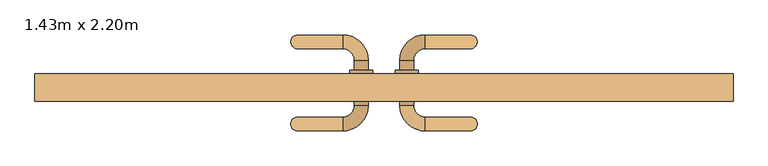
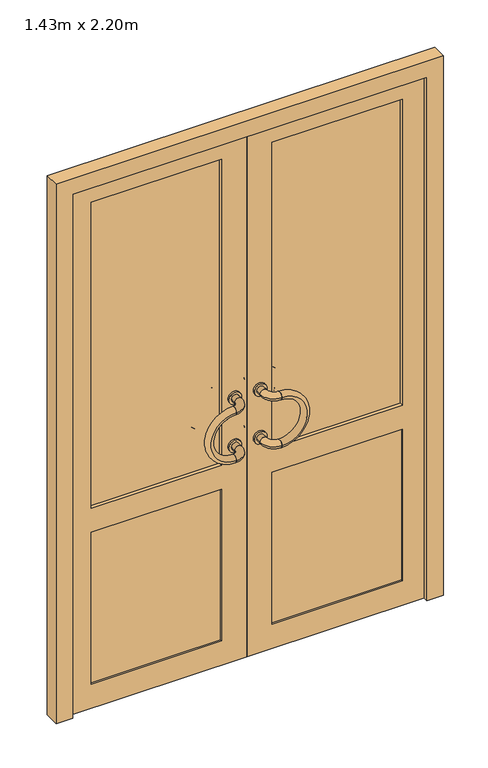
"""IFC4 building model written with IfcOpenShell, lengths in millimetres: door geometry, PVC Double - Panneaux vitrés haut : 1.43m x 2.20m."""

from ifc_helpers import new_model, si_unit, point, frame, frame_2d, origin, place, context, project, spatial, polyline, circle_curve, ellipse_curve, trimmed, segment, composite_curve, outline, extrude, faceted_brep, source, transform, mapped, element, save
from ifc_brep_helpers import plane_surface, revolved_surface, advanced_brep


def door_1_43m_x_2_20m_84f75056(model_context):
    return source(origin(), model_context, "Body", "SolidModel", [
        extrude(outline(composite_curve([segment(trimmed(circle_curve(frame_2d((1100.0, -50.0)), 25.0), [point((1100.0, -25.0))], [point((1100.0, -75.0))], False, "CARTESIAN"), True, "CONTINUOUS"), segment(trimmed(circle_curve(frame_2d((1100.0, -50.0)), 25.0), [point((1100.0, -75.0))], [point((1100.0, -25.0))], False, "CARTESIAN"), True, "CONTINUOUS")], self_intersect=False), holes=[composite_curve([segment(trimmed(circle_curve(frame_2d((1100.0, -50.0)), 15.0), [point((1100.0, -35.0))], [point((1100.0, -65.0))], True, "CARTESIAN"), True, "CONTINUOUS"), segment(trimmed(circle_curve(frame_2d((1100.0, -50.0)), 15.0), [point((1100.0, -65.0))], [point((1100.0, -35.0))], True, "CARTESIAN"), True, "CONTINUOUS")], self_intersect=False)]), frame((0.0, 62.0, 0.0), z_axis=(0.0, 1.0, 0.0), x_axis=(0.0, 0.0, 1.0)), (0.0, 0.0, 1.0), 8.0),
        extrude(outline(composite_curve([segment(trimmed(circle_curve(frame_2d((900.0, -50.0)), 25.0), [point((900.0, -25.0))], [point((900.0, -75.0))], False, "CARTESIAN"), True, "CONTINUOUS"), segment(trimmed(circle_curve(frame_2d((900.0, -50.0)), 25.0), [point((900.0, -75.0))], [point((900.0, -25.0))], False, "CARTESIAN"), True, "CONTINUOUS")], self_intersect=False), holes=[composite_curve([segment(trimmed(circle_curve(frame_2d((900.0, -50.0)), 15.0), [point((900.0, -35.0))], [point((900.0, -65.0))], True, "CARTESIAN"), True, "CONTINUOUS"), segment(trimmed(circle_curve(frame_2d((900.0, -50.0)), 15.0), [point((900.0, -65.0))], [point((900.0, -35.0))], True, "CARTESIAN"), True, "CONTINUOUS")], self_intersect=False)]), frame((0.0, 62.0, 0.0), z_axis=(0.0, 1.0, 0.0), x_axis=(0.0, 0.0, 1.0)), (0.0, 0.0, 1.0), 8.0),
        extrude(outline(composite_curve([segment(trimmed(circle_curve(frame_2d((1100.0, -50.0)), 25.0), [point((1100.0, -25.0))], [point((1100.0, -75.0))], False, "CARTESIAN"), True, "CONTINUOUS"), segment(trimmed(circle_curve(frame_2d((1100.0, -50.0)), 25.0), [point((1100.0, -75.0))], [point((1100.0, -25.0))], False, "CARTESIAN"), True, "CONTINUOUS")], self_intersect=False), holes=[composite_curve([segment(trimmed(circle_curve(frame_2d((1100.0, -50.0)), 15.0), [point((1100.0, -35.0))], [point((1100.0, -65.0))], True, "CARTESIAN"), True, "CONTINUOUS"), segment(trimmed(circle_curve(frame_2d((1100.0, -50.0)), 15.0), [point((1100.0, -65.0))], [point((1100.0, -35.0))], True, "CARTESIAN"), True, "CONTINUOUS")], self_intersect=False)]), frame((0.0, 110.0, 0.0), z_axis=(0.0, 1.0, 0.0), x_axis=(0.0, 0.0, 1.0)), (0.0, 0.0, 1.0), 8.0),
        extrude(outline(composite_curve([segment(trimmed(circle_curve(frame_2d((900.0, -50.0)), 25.0), [point((900.0, -25.0))], [point((900.0, -75.0))], False, "CARTESIAN"), True, "CONTINUOUS"), segment(trimmed(circle_curve(frame_2d((900.0, -50.0)), 25.0), [point((900.0, -75.0))], [point((900.0, -25.0))], False, "CARTESIAN"), True, "CONTINUOUS")], self_intersect=False), holes=[composite_curve([segment(trimmed(circle_curve(frame_2d((900.0, -50.0)), 15.0), [point((900.0, -35.0))], [point((900.0, -65.0))], True, "CARTESIAN"), True, "CONTINUOUS"), segment(trimmed(circle_curve(frame_2d((900.0, -50.0)), 15.0), [point((900.0, -65.0))], [point((900.0, -35.0))], True, "CARTESIAN"), True, "CONTINUOUS")], self_intersect=False)]), frame((0.0, 110.0, 0.0), z_axis=(0.0, 1.0, 0.0), x_axis=(0.0, 0.0, 1.0)), (0.0, 0.0, 1.0), 8.0),
        advanced_brep(
        [(-90.0, -15.0, 1100.0), (-90.0, 15.0, 1100.0), (-90.0, -15.0, 900.0), (-90.0, 15.0, 900.0)],
        [
            (0, 1, circle_curve(frame((-90.0, 0.0, 1100.0), z_axis=(1.0, 0.0, 0.0), x_axis=(0.0, 1.0, 0.0)), 15.0)),
            (1, 0, circle_curve(frame((-90.0, 0.0, 1100.0), z_axis=(1.0, 0.0, 0.0), x_axis=(0.0, 1.0, 0.0)), 15.0)),
            (2, 3, circle_curve(frame((-90.0, 0.0, 900.0), z_axis=(1.0, 0.0, 0.0), x_axis=(0.0, 1.0, 0.0)), 15.0)),
            (3, 2, circle_curve(frame((-90.0, 0.0, 900.0), z_axis=(1.0, 0.0, 0.0), x_axis=(0.0, 1.0, 0.0)), 15.0)),
            (3, 1, circle_curve(frame((-90.0, 15.0, 1000.0), z_axis=(0.0, 1.0, 0.0), x_axis=(0.0, 0.0, 1.0)), 100.0)),
            (0, 2, circle_curve(frame((-90.0, -15.0, 1000.0), z_axis=(0.0, -1.0, 0.0), x_axis=(0.0, 0.0, 1.0)), 100.0)),
        ],
        [
            plane_surface(frame((-90.0, 0.0, 1000.0), z_axis=(1.0, 0.0, 0.0), x_axis=(0.0, 0.0, 1.0))),
            plane_surface(frame((-90.0, 0.0, 1000.0), z_axis=(1.0, 0.0, 0.0), x_axis=(0.0, 0.0, -1.0))),
            revolved_surface(trimmed(ellipse_curve(frame((-90.0, 0.0, 1100.0), z_axis=(1.0, 0.0, 0.0), x_axis=(0.0, 1.0, 0.0)), 15.0, 15.0), [point((-90.0, -15.0, 1100.0))], [point((-90.0, 15.0, 1100.0))], True, "CARTESIAN"), (-90.0, 0.0, 1000.0), (0.0, -1.0, 0.0)),
            revolved_surface(trimmed(ellipse_curve(frame((-90.0, 0.0, 1100.0), z_axis=(1.0, 0.0, 0.0), x_axis=(0.0, 1.0, 0.0)), 15.0, 15.0), [point((-90.0, 15.0, 1100.0))], [point((-90.0, -15.0, 1100.0))], True, "CARTESIAN"), (-90.0, 0.0, 1000.0), (0.0, -1.0, 0.0)),
        ],
        [
            (0, [[1, 2]]),
            (1, [[3, 4]]),
            (2, [[5, -1, 6, -4]]),
            (3, [[-6, -2, -5, -3]]),
        ],
    ),
        advanced_brep(
        [(-65.0, 40.0, 1100.0), (-35.0, 40.0, 1100.0), (-90.0, 15.0, 1100.0), (-90.0, -15.0, 1100.0)],
        [
            (0, 1, circle_curve(frame((-50.0, 40.0, 1100.0), z_axis=(0.0, 1.0, 0.0), x_axis=(1.0, 0.0, 0.0)), 15.0)),
            (1, 0, circle_curve(frame((-50.0, 40.0, 1100.0), z_axis=(0.0, 1.0, 0.0), x_axis=(1.0, 0.0, 0.0)), 15.0)),
            (2, 3, circle_curve(frame((-90.0, 0.0, 1100.0), z_axis=(-1.0, 0.0, 0.0), x_axis=(0.0, -1.0, 0.0)), 15.0)),
            (3, 2, circle_curve(frame((-90.0, 0.0, 1100.0), z_axis=(-1.0, 0.0, 0.0), x_axis=(0.0, -1.0, 0.0)), 15.0)),
            (3, 1, circle_curve(frame((-90.0, 40.0, 1100.0), z_axis=(0.0, 0.0, 1.0), x_axis=(1.0, 0.0, 0.0)), 55.0)),
            (0, 2, circle_curve(frame((-90.0, 40.0, 1100.0), z_axis=(0.0, 0.0, -1.0), x_axis=(1.0, 0.0, 0.0)), 25.0)),
        ],
        [
            plane_surface(frame((-90.0, 40.0, 1100.0), z_axis=(0.0, 1.0, 0.0), x_axis=(1.0, 0.0, 0.0))),
            plane_surface(frame((-90.0, 40.0, 1100.0), z_axis=(-1.0, 0.0, 0.0), x_axis=(0.0, -1.0, 0.0))),
            revolved_surface(trimmed(ellipse_curve(frame((-50.0, 40.0, 1100.0), z_axis=(0.0, 1.0, 0.0), x_axis=(1.0, 0.0, 0.0)), 15.0, 15.0), [point((-65.0, 40.0, 1100.0))], [point((-35.0, 40.0, 1100.0))], True, "CARTESIAN"), (-90.0, 40.0, 1100.0), (0.0, 0.0, -1.0)),
            revolved_surface(trimmed(ellipse_curve(frame((-50.0, 40.0, 1100.0), z_axis=(0.0, 1.0, 0.0), x_axis=(1.0, 0.0, 0.0)), 15.0, 15.0), [point((-35.0, 40.0, 1100.0))], [point((-65.0, 40.0, 1100.0))], True, "CARTESIAN"), (-90.0, 40.0, 1100.0), (0.0, 0.0, -1.0)),
        ],
        [
            (0, [[1, 2]]),
            (1, [[3, 4]]),
            (2, [[5, -1, 6, -4]]),
            (3, [[-6, -2, -5, -3]]),
        ],
    ),
        advanced_brep(
        [(-65.0, 40.0, 900.0), (-35.0, 40.0, 900.0), (-90.0, 15.0, 900.0), (-90.0, -15.0, 900.0)],
        [
            (0, 1, circle_curve(frame((-50.0, 40.0, 900.0), z_axis=(0.0, 1.0, 0.0), x_axis=(1.0, 0.0, 0.0)), 15.0)),
            (1, 0, circle_curve(frame((-50.0, 40.0, 900.0), z_axis=(0.0, 1.0, 0.0), x_axis=(1.0, 0.0, 0.0)), 15.0)),
            (2, 3, circle_curve(frame((-90.0, 0.0, 900.0), z_axis=(-1.0, 0.0, 0.0), x_axis=(0.0, -1.0, 0.0)), 15.0)),
            (3, 2, circle_curve(frame((-90.0, 0.0, 900.0), z_axis=(-1.0, 0.0, 0.0), x_axis=(0.0, -1.0, 0.0)), 15.0)),
            (3, 1, circle_curve(frame((-90.0, 40.0, 900.0), z_axis=(0.0, 0.0, 1.0), x_axis=(1.0, 0.0, 0.0)), 55.0)),
            (0, 2, circle_curve(frame((-90.0, 40.0, 900.0), z_axis=(0.0, 0.0, -1.0), x_axis=(1.0, 0.0, 0.0)), 25.0)),
        ],
        [
            plane_surface(frame((-90.0, 40.0, 1100.0), z_axis=(0.0, 1.0, 0.0), x_axis=(1.0, 0.0, 0.0))),
            plane_surface(frame((-90.0, 40.0, 1100.0), z_axis=(-1.0, 0.0, 0.0), x_axis=(0.0, -1.0, 0.0))),
            revolved_surface(trimmed(ellipse_curve(frame((-50.0, 40.0, 900.0), z_axis=(0.0, 1.0, 0.0), x_axis=(1.0, 0.0, 0.0)), 15.0, 15.0), [point((-65.0, 40.0, 900.0))], [point((-35.0, 40.0, 900.0))], True, "CARTESIAN"), (-90.0, 40.0, 1100.0), (0.0, 0.0, -1.0)),
            revolved_surface(trimmed(ellipse_curve(frame((-50.0, 40.0, 900.0), z_axis=(0.0, 1.0, 0.0), x_axis=(1.0, 0.0, 0.0)), 15.0, 15.0), [point((-35.0, 40.0, 900.0))], [point((-65.0, 40.0, 900.0))], True, "CARTESIAN"), (-90.0, 40.0, 1100.0), (0.0, 0.0, -1.0)),
        ],
        [
            (0, [[1, 2]]),
            (1, [[3, 4]]),
            (2, [[5, -1, 6, -4]]),
            (3, [[-6, -2, -5, -3]]),
        ],
    ),
        extrude(outline(composite_curve([segment(trimmed(circle_curve(frame_2d((1100.0, -50.0)), 15.0), [point((1100.0, -35.0))], [point((1100.0, -65.0))], False, "CARTESIAN"), True, "CONTINUOUS"), segment(trimmed(circle_curve(frame_2d((1100.0, -50.0)), 15.0), [point((1100.0, -65.0))], [point((1100.0, -35.0))], False, "CARTESIAN"), True, "CONTINUOUS")], self_intersect=False)), frame((0.0, 40.0, 0.0), z_axis=(0.0, 1.0, 0.0), x_axis=(0.0, 0.0, 1.0)), (0.0, 0.0, 1.0), 30.0),
        extrude(outline(composite_curve([segment(trimmed(circle_curve(frame_2d((900.0, -50.0)), 15.0), [point((900.0, -35.0))], [point((900.0, -65.0))], False, "CARTESIAN"), True, "CONTINUOUS"), segment(trimmed(circle_curve(frame_2d((900.0, -50.0)), 15.0), [point((900.0, -65.0))], [point((900.0, -35.0))], False, "CARTESIAN"), True, "CONTINUOUS")], self_intersect=False)), frame((0.0, 40.0, 0.0), z_axis=(0.0, 1.0, 0.0), x_axis=(0.0, 0.0, 1.0)), (0.0, 0.0, 1.0), 30.0),
        advanced_brep(
        [(-90.0, 165.0, 1100.0), (-90.0, 195.0, 1100.0), (-90.0, 165.0, 900.0), (-90.0, 195.0, 900.0)],
        [
            (0, 1, circle_curve(frame((-90.0, 180.0, 1100.0), z_axis=(1.0, 0.0, 0.0), x_axis=(0.0, 1.0, 0.0)), 15.0)),
            (1, 0, circle_curve(frame((-90.0, 180.0, 1100.0), z_axis=(1.0, 0.0, 0.0), x_axis=(0.0, 1.0, 0.0)), 15.0)),
            (2, 3, circle_curve(frame((-90.0, 180.0, 900.0), z_axis=(1.0, 0.0, 0.0), x_axis=(0.0, 1.0, 0.0)), 15.0)),
            (3, 2, circle_curve(frame((-90.0, 180.0, 900.0), z_axis=(1.0, 0.0, 0.0), x_axis=(0.0, 1.0, 0.0)), 15.0)),
            (3, 1, circle_curve(frame((-90.0, 195.0, 1000.0), z_axis=(0.0, 1.0, 0.0), x_axis=(0.0, 0.0, 1.0)), 100.0)),
            (0, 2, circle_curve(frame((-90.0, 165.0, 1000.0), z_axis=(0.0, -1.0, 0.0), x_axis=(0.0, 0.0, 1.0)), 100.0)),
        ],
        [
            plane_surface(frame((-90.0, 195.0, 1000.0), z_axis=(1.0, 0.0, 0.0), x_axis=(0.0, 0.0, 1.0))),
            plane_surface(frame((-90.0, 195.0, 1000.0), z_axis=(1.0, 0.0, 0.0), x_axis=(0.0, 0.0, -1.0))),
            revolved_surface(trimmed(ellipse_curve(frame((-90.0, 180.0, 1100.0), z_axis=(1.0, 0.0, 0.0), x_axis=(0.0, 1.0, 0.0)), 15.0, 15.0), [point((-90.0, 165.0, 1100.0))], [point((-90.0, 195.0, 1100.0))], True, "CARTESIAN"), (-90.0, 195.0, 1000.0), (0.0, -1.0, 0.0)),
            revolved_surface(trimmed(ellipse_curve(frame((-90.0, 180.0, 1100.0), z_axis=(1.0, 0.0, 0.0), x_axis=(0.0, 1.0, 0.0)), 15.0, 15.0), [point((-90.0, 195.0, 1100.0))], [point((-90.0, 165.0, 1100.0))], True, "CARTESIAN"), (-90.0, 195.0, 1000.0), (0.0, -1.0, 0.0)),
        ],
        [
            (0, [[1, 2]]),
            (1, [[3, 4]]),
            (2, [[5, -1, 6, -4]]),
            (3, [[-6, -2, -5, -3]]),
        ],
    ),
        advanced_brep(
        [(-35.0, 140.0, 1100.0), (-65.0, 140.0, 1100.0), (-90.0, 195.0, 1100.0), (-90.0, 165.0, 1100.0)],
        [
            (0, 1, circle_curve(frame((-50.0, 140.0, 1100.0), z_axis=(0.0, -1.0, 0.0), x_axis=(-1.0, 0.0, 0.0)), 15.0)),
            (1, 0, circle_curve(frame((-50.0, 140.0, 1100.0), z_axis=(0.0, -1.0, 0.0), x_axis=(-1.0, 0.0, 0.0)), 15.0)),
            (2, 3, circle_curve(frame((-90.0, 180.0, 1100.0), z_axis=(-1.0, 0.0, 0.0), x_axis=(0.0, -1.0, 0.0)), 15.0)),
            (3, 2, circle_curve(frame((-90.0, 180.0, 1100.0), z_axis=(-1.0, 0.0, 0.0), x_axis=(0.0, -1.0, 0.0)), 15.0)),
            (3, 1, circle_curve(frame((-90.0, 140.0, 1100.0), z_axis=(0.0, 0.0, -1.0), x_axis=(1.0, 0.0, 0.0)), 25.0)),
            (0, 2, circle_curve(frame((-90.0, 140.0, 1100.0), z_axis=(0.0, 0.0, 1.0), x_axis=(1.0, 0.0, 0.0)), 55.0)),
        ],
        [
            plane_surface(frame((-90.0, 140.0, 1100.0), z_axis=(0.0, -1.0, 0.0), x_axis=(1.0, 0.0, 0.0))),
            plane_surface(frame((-90.0, 140.0, 1100.0), z_axis=(-1.0, 0.0, 0.0), x_axis=(0.0, 1.0, 0.0))),
            revolved_surface(trimmed(ellipse_curve(frame((-50.0, 140.0, 1100.0), z_axis=(0.0, -1.0, 0.0), x_axis=(-1.0, 0.0, 0.0)), 15.0, 15.0), [point((-35.0, 140.0, 1100.0))], [point((-65.0, 140.0, 1100.0))], True, "CARTESIAN"), (-90.0, 140.0, 1100.0), (0.0, 0.0, 1.0)),
            revolved_surface(trimmed(ellipse_curve(frame((-50.0, 140.0, 1100.0), z_axis=(0.0, -1.0, 0.0), x_axis=(-1.0, 0.0, 0.0)), 15.0, 15.0), [point((-65.0, 140.0, 1100.0))], [point((-35.0, 140.0, 1100.0))], True, "CARTESIAN"), (-90.0, 140.0, 1100.0), (0.0, 0.0, 1.0)),
        ],
        [
            (0, [[1, 2]]),
            (1, [[3, 4]]),
            (2, [[5, -1, 6, -4]]),
            (3, [[-6, -2, -5, -3]]),
        ],
    ),
        advanced_brep(
        [(-35.0, 140.0, 900.0), (-65.0, 140.0, 900.0), (-90.0, 195.0, 900.0), (-90.0, 165.0, 900.0)],
        [
            (0, 1, circle_curve(frame((-50.0, 140.0, 900.0), z_axis=(0.0, -1.0, 0.0), x_axis=(-1.0, 0.0, 0.0)), 15.0)),
            (1, 0, circle_curve(frame((-50.0, 140.0, 900.0), z_axis=(0.0, -1.0, 0.0), x_axis=(-1.0, 0.0, 0.0)), 15.0)),
            (2, 3, circle_curve(frame((-90.0, 180.0, 900.0), z_axis=(-1.0, 0.0, 0.0), x_axis=(0.0, -1.0, 0.0)), 15.0)),
            (3, 2, circle_curve(frame((-90.0, 180.0, 900.0), z_axis=(-1.0, 0.0, 0.0), x_axis=(0.0, -1.0, 0.0)), 15.0)),
            (3, 1, circle_curve(frame((-90.0, 140.0, 900.0), z_axis=(0.0, 0.0, -1.0), x_axis=(1.0, 0.0, 0.0)), 25.0)),
            (0, 2, circle_curve(frame((-90.0, 140.0, 900.0), z_axis=(0.0, 0.0, 1.0), x_axis=(1.0, 0.0, 0.0)), 55.0)),
        ],
        [
            plane_surface(frame((-90.0, 140.0, 1100.0), z_axis=(0.0, -1.0, 0.0), x_axis=(1.0, 0.0, 0.0))),
            plane_surface(frame((-90.0, 140.0, 1100.0), z_axis=(-1.0, 0.0, 0.0), x_axis=(0.0, 1.0, 0.0))),
            revolved_surface(trimmed(ellipse_curve(frame((-50.0, 140.0, 900.0), z_axis=(0.0, -1.0, 0.0), x_axis=(-1.0, 0.0, 0.0)), 15.0, 15.0), [point((-35.0, 140.0, 900.0))], [point((-65.0, 140.0, 900.0))], True, "CARTESIAN"), (-90.0, 140.0, 1100.0), (0.0, 0.0, 1.0)),
            revolved_surface(trimmed(ellipse_curve(frame((-50.0, 140.0, 900.0), z_axis=(0.0, -1.0, 0.0), x_axis=(-1.0, 0.0, 0.0)), 15.0, 15.0), [point((-65.0, 140.0, 900.0))], [point((-35.0, 140.0, 900.0))], True, "CARTESIAN"), (-90.0, 140.0, 1100.0), (0.0, 0.0, 1.0)),
        ],
        [
            (0, [[1, 2]]),
            (1, [[3, 4]]),
            (2, [[5, -1, 6, -4]]),
            (3, [[-6, -2, -5, -3]]),
        ],
    ),
        extrude(outline(composite_curve([segment(trimmed(circle_curve(frame_2d((1100.0, -50.0)), 15.0), [point((1100.0, -35.0))], [point((1100.0, -65.0))], False, "CARTESIAN"), True, "CONTINUOUS"), segment(trimmed(circle_curve(frame_2d((1100.0, -50.0)), 15.0), [point((1100.0, -65.0))], [point((1100.0, -35.0))], False, "CARTESIAN"), True, "CONTINUOUS")], self_intersect=False)), frame((0.0, 110.0, 0.0), z_axis=(0.0, 1.0, 0.0), x_axis=(0.0, 0.0, 1.0)), (0.0, 0.0, 1.0), 30.0),
        extrude(outline(composite_curve([segment(trimmed(circle_curve(frame_2d((900.0, -50.0)), 15.0), [point((900.0, -35.0))], [point((900.0, -65.0))], False, "CARTESIAN"), True, "CONTINUOUS"), segment(trimmed(circle_curve(frame_2d((900.0, -50.0)), 15.0), [point((900.0, -65.0))], [point((900.0, -35.0))], False, "CARTESIAN"), True, "CONTINUOUS")], self_intersect=False)), frame((0.0, 110.0, 0.0), z_axis=(0.0, 1.0, 0.0), x_axis=(0.0, 0.0, 1.0)), (0.0, 0.0, 1.0), 30.0),
        extrude(outline(composite_curve([segment(trimmed(circle_curve(frame_2d((1100.0, 50.0)), 25.0), [point((1100.0, 25.0))], [point((1100.0, 75.0))], False, "CARTESIAN"), True, "CONTINUOUS"), segment(trimmed(circle_curve(frame_2d((1100.0, 50.0)), 25.0), [point((1100.0, 75.0))], [point((1100.0, 25.0))], False, "CARTESIAN"), True, "CONTINUOUS")], self_intersect=False), holes=[composite_curve([segment(trimmed(circle_curve(frame_2d((1100.0, 50.0)), 15.0), [point((1100.0, 35.0))], [point((1100.0, 65.0))], True, "CARTESIAN"), True, "CONTINUOUS"), segment(trimmed(circle_curve(frame_2d((1100.0, 50.0)), 15.0), [point((1100.0, 65.0))], [point((1100.0, 35.0))], True, "CARTESIAN"), True, "CONTINUOUS")], self_intersect=False)]), frame((0.0, 62.0, 0.0), z_axis=(0.0, 1.0, 0.0), x_axis=(0.0, 0.0, 1.0)), (0.0, 0.0, 1.0), 8.0),
        extrude(outline(composite_curve([segment(trimmed(circle_curve(frame_2d((900.0, 50.0)), 25.0), [point((900.0, 25.0))], [point((900.0, 75.0))], False, "CARTESIAN"), True, "CONTINUOUS"), segment(trimmed(circle_curve(frame_2d((900.0, 50.0)), 25.0), [point((900.0, 75.0))], [point((900.0, 25.0))], False, "CARTESIAN"), True, "CONTINUOUS")], self_intersect=False), holes=[composite_curve([segment(trimmed(circle_curve(frame_2d((900.0, 50.0)), 15.0), [point((900.0, 35.0))], [point((900.0, 65.0))], True, "CARTESIAN"), True, "CONTINUOUS"), segment(trimmed(circle_curve(frame_2d((900.0, 50.0)), 15.0), [point((900.0, 65.0))], [point((900.0, 35.0))], True, "CARTESIAN"), True, "CONTINUOUS")], self_intersect=False)]), frame((0.0, 62.0, 0.0), z_axis=(0.0, 1.0, 0.0), x_axis=(0.0, 0.0, 1.0)), (0.0, 0.0, 1.0), 8.0),
        extrude(outline(composite_curve([segment(trimmed(circle_curve(frame_2d((1100.0, 50.0)), 25.0), [point((1100.0, 25.0))], [point((1100.0, 75.0))], False, "CARTESIAN"), True, "CONTINUOUS"), segment(trimmed(circle_curve(frame_2d((1100.0, 50.0)), 25.0), [point((1100.0, 75.0))], [point((1100.0, 25.0))], False, "CARTESIAN"), True, "CONTINUOUS")], self_intersect=False), holes=[composite_curve([segment(trimmed(circle_curve(frame_2d((1100.0, 50.0)), 15.0), [point((1100.0, 35.0))], [point((1100.0, 65.0))], True, "CARTESIAN"), True, "CONTINUOUS"), segment(trimmed(circle_curve(frame_2d((1100.0, 50.0)), 15.0), [point((1100.0, 65.0))], [point((1100.0, 35.0))], True, "CARTESIAN"), True, "CONTINUOUS")], self_intersect=False)]), frame((0.0, 110.0, 0.0), z_axis=(0.0, 1.0, 0.0), x_axis=(0.0, 0.0, 1.0)), (0.0, 0.0, 1.0), 8.0),
        extrude(outline(composite_curve([segment(trimmed(circle_curve(frame_2d((900.0, 50.0)), 25.0), [point((900.0, 25.0))], [point((900.0, 75.0))], False, "CARTESIAN"), True, "CONTINUOUS"), segment(trimmed(circle_curve(frame_2d((900.0, 50.0)), 25.0), [point((900.0, 75.0))], [point((900.0, 25.0))], False, "CARTESIAN"), True, "CONTINUOUS")], self_intersect=False), holes=[composite_curve([segment(trimmed(circle_curve(frame_2d((900.0, 50.0)), 15.0), [point((900.0, 35.0))], [point((900.0, 65.0))], True, "CARTESIAN"), True, "CONTINUOUS"), segment(trimmed(circle_curve(frame_2d((900.0, 50.0)), 15.0), [point((900.0, 65.0))], [point((900.0, 35.0))], True, "CARTESIAN"), True, "CONTINUOUS")], self_intersect=False)]), frame((0.0, 110.0, 0.0), z_axis=(0.0, 1.0, 0.0), x_axis=(0.0, 0.0, 1.0)), (0.0, 0.0, 1.0), 8.0),
        advanced_brep(
        [(90.0, -15.0, 1100.0), (90.0, 15.0, 1100.0), (90.0, -15.0, 900.0), (90.0, 15.0, 900.0)],
        [
            (0, 1, circle_curve(frame((90.0, 0.0, 1100.0), z_axis=(-1.0, 0.0, 0.0), x_axis=(0.0, 1.0, 0.0)), 15.0)),
            (1, 0, circle_curve(frame((90.0, 0.0, 1100.0), z_axis=(-1.0, 0.0, 0.0), x_axis=(0.0, 1.0, 0.0)), 15.0)),
            (2, 3, circle_curve(frame((90.0, 0.0, 900.0), z_axis=(-1.0, 0.0, 0.0), x_axis=(0.0, 1.0, 0.0)), 15.0)),
            (3, 2, circle_curve(frame((90.0, 0.0, 900.0), z_axis=(-1.0, 0.0, 0.0), x_axis=(0.0, 1.0, 0.0)), 15.0)),
            (2, 0, circle_curve(frame((90.0, -15.0, 1000.0), z_axis=(0.0, -1.0, 0.0), x_axis=(0.0, 0.0, 1.0)), 100.0)),
            (1, 3, circle_curve(frame((90.0, 15.0, 1000.0), z_axis=(0.0, 1.0, 0.0), x_axis=(0.0, 0.0, 1.0)), 100.0)),
        ],
        [
            plane_surface(frame((90.0, 0.0, 1000.0), z_axis=(-1.0, 0.0, 0.0), x_axis=(0.0, 0.0, 1.0))),
            plane_surface(frame((90.0, 0.0, 1000.0), z_axis=(-1.0, 0.0, 0.0), x_axis=(0.0, 0.0, -1.0))),
            revolved_surface(trimmed(ellipse_curve(frame((90.0, 0.0, 1100.0), z_axis=(1.0, 0.0, 0.0), x_axis=(0.0, 1.0, 0.0)), 15.0, 15.0), [point((90.0, -15.0, 1100.0))], [point((90.0, 15.0, 1100.0))], True, "CARTESIAN"), (90.0, 0.0, 1000.0), (0.0, -1.0, 0.0)),
            revolved_surface(trimmed(ellipse_curve(frame((90.0, 0.0, 1100.0), z_axis=(1.0, 0.0, 0.0), x_axis=(0.0, 1.0, 0.0)), 15.0, 15.0), [point((90.0, 15.0, 1100.0))], [point((90.0, -15.0, 1100.0))], True, "CARTESIAN"), (90.0, 0.0, 1000.0), (0.0, -1.0, 0.0)),
        ],
        [
            (0, [[1, 2]]),
            (1, [[3, 4]]),
            (2, [[-3, 5, -2, 6]]),
            (3, [[-4, -6, -1, -5]]),
        ],
    ),
        advanced_brep(
        [(65.0, 40.0, 1100.0), (35.0, 40.0, 1100.0), (90.0, 15.0, 1100.0), (90.0, -15.0, 1100.0)],
        [
            (0, 1, circle_curve(frame((50.0, 40.0, 1100.0), z_axis=(0.0, 1.0, 0.0), x_axis=(-1.0, 0.0, 0.0)), 15.0)),
            (1, 0, circle_curve(frame((50.0, 40.0, 1100.0), z_axis=(0.0, 1.0, 0.0), x_axis=(-1.0, 0.0, 0.0)), 15.0)),
            (2, 3, circle_curve(frame((90.0, 0.0, 1100.0), z_axis=(1.0, 0.0, 0.0), x_axis=(0.0, -1.0, 0.0)), 15.0)),
            (3, 2, circle_curve(frame((90.0, 0.0, 1100.0), z_axis=(1.0, 0.0, 0.0), x_axis=(0.0, -1.0, 0.0)), 15.0)),
            (2, 0, circle_curve(frame((90.0, 40.0, 1100.0), z_axis=(0.0, 0.0, -1.0), x_axis=(-1.0, 0.0, 0.0)), 25.0)),
            (1, 3, circle_curve(frame((90.0, 40.0, 1100.0), z_axis=(0.0, 0.0, 1.0), x_axis=(-1.0, 0.0, 0.0)), 55.0)),
        ],
        [
            plane_surface(frame((90.0, 40.0, 1100.0), z_axis=(0.0, 1.0, 0.0), x_axis=(-1.0, 0.0, 0.0))),
            plane_surface(frame((90.0, 40.0, 1100.0), z_axis=(1.0, 0.0, 0.0), x_axis=(0.0, -1.0, 0.0))),
            revolved_surface(trimmed(ellipse_curve(frame((50.0, 40.0, 1100.0), z_axis=(0.0, -1.0, 0.0), x_axis=(-1.0, 0.0, 0.0)), 15.0, 15.0), [point((65.0, 40.0, 1100.0))], [point((35.0, 40.0, 1100.0))], True, "CARTESIAN"), (90.0, 40.0, 1100.0), (0.0, 0.0, -1.0)),
            revolved_surface(trimmed(ellipse_curve(frame((50.0, 40.0, 1100.0), z_axis=(0.0, -1.0, 0.0), x_axis=(-1.0, 0.0, 0.0)), 15.0, 15.0), [point((35.0, 40.0, 1100.0))], [point((65.0, 40.0, 1100.0))], True, "CARTESIAN"), (90.0, 40.0, 1100.0), (0.0, 0.0, -1.0)),
        ],
        [
            (0, [[1, 2]]),
            (1, [[3, 4]]),
            (2, [[-3, 5, -2, 6]]),
            (3, [[-4, -6, -1, -5]]),
        ],
    ),
        advanced_brep(
        [(65.0, 40.0, 900.0), (35.0, 40.0, 900.0), (90.0, 15.0, 900.0), (90.0, -15.0, 900.0)],
        [
            (0, 1, circle_curve(frame((50.0, 40.0, 900.0), z_axis=(0.0, 1.0, 0.0), x_axis=(-1.0, 0.0, 0.0)), 15.0)),
            (1, 0, circle_curve(frame((50.0, 40.0, 900.0), z_axis=(0.0, 1.0, 0.0), x_axis=(-1.0, 0.0, 0.0)), 15.0)),
            (2, 3, circle_curve(frame((90.0, 0.0, 900.0), z_axis=(1.0, 0.0, 0.0), x_axis=(0.0, -1.0, 0.0)), 15.0)),
            (3, 2, circle_curve(frame((90.0, 0.0, 900.0), z_axis=(1.0, 0.0, 0.0), x_axis=(0.0, -1.0, 0.0)), 15.0)),
            (2, 0, circle_curve(frame((90.0, 40.0, 900.0), z_axis=(0.0, 0.0, -1.0), x_axis=(-1.0, 0.0, 0.0)), 25.0)),
            (1, 3, circle_curve(frame((90.0, 40.0, 900.0), z_axis=(0.0, 0.0, 1.0), x_axis=(-1.0, 0.0, 0.0)), 55.0)),
        ],
        [
            plane_surface(frame((90.0, 40.0, 1100.0), z_axis=(0.0, 1.0, 0.0), x_axis=(-1.0, 0.0, 0.0))),
            plane_surface(frame((90.0, 40.0, 1100.0), z_axis=(1.0, 0.0, 0.0), x_axis=(0.0, -1.0, 0.0))),
            revolved_surface(trimmed(ellipse_curve(frame((50.0, 40.0, 900.0), z_axis=(0.0, -1.0, 0.0), x_axis=(-1.0, 0.0, 0.0)), 15.0, 15.0), [point((65.0, 40.0, 900.0))], [point((35.0, 40.0, 900.0))], True, "CARTESIAN"), (90.0, 40.0, 1100.0), (0.0, 0.0, -1.0)),
            revolved_surface(trimmed(ellipse_curve(frame((50.0, 40.0, 900.0), z_axis=(0.0, -1.0, 0.0), x_axis=(-1.0, 0.0, 0.0)), 15.0, 15.0), [point((35.0, 40.0, 900.0))], [point((65.0, 40.0, 900.0))], True, "CARTESIAN"), (90.0, 40.0, 1100.0), (0.0, 0.0, -1.0)),
        ],
        [
            (0, [[1, 2]]),
            (1, [[3, 4]]),
            (2, [[-3, 5, -2, 6]]),
            (3, [[-4, -6, -1, -5]]),
        ],
    ),
        extrude(outline(composite_curve([segment(trimmed(circle_curve(frame_2d((1100.0, 50.0)), 15.0), [point((1100.0, 35.0))], [point((1100.0, 65.0))], False, "CARTESIAN"), True, "CONTINUOUS"), segment(trimmed(circle_curve(frame_2d((1100.0, 50.0)), 15.0), [point((1100.0, 65.0))], [point((1100.0, 35.0))], False, "CARTESIAN"), True, "CONTINUOUS")], self_intersect=False)), frame((0.0, 40.0, 0.0), z_axis=(0.0, 1.0, 0.0), x_axis=(0.0, 0.0, 1.0)), (0.0, 0.0, 1.0), 30.0),
        extrude(outline(composite_curve([segment(trimmed(circle_curve(frame_2d((900.0, 50.0)), 15.0), [point((900.0, 35.0))], [point((900.0, 65.0))], False, "CARTESIAN"), True, "CONTINUOUS"), segment(trimmed(circle_curve(frame_2d((900.0, 50.0)), 15.0), [point((900.0, 65.0))], [point((900.0, 35.0))], False, "CARTESIAN"), True, "CONTINUOUS")], self_intersect=False)), frame((0.0, 40.0, 0.0), z_axis=(0.0, 1.0, 0.0), x_axis=(0.0, 0.0, 1.0)), (0.0, 0.0, 1.0), 30.0),
        advanced_brep(
        [(90.0, 165.0, 1100.0), (90.0, 195.0, 1100.0), (90.0, 165.0, 900.0), (90.0, 195.0, 900.0)],
        [
            (0, 1, circle_curve(frame((90.0, 180.0, 1100.0), z_axis=(-1.0, 0.0, 0.0), x_axis=(0.0, 1.0, 0.0)), 15.0)),
            (1, 0, circle_curve(frame((90.0, 180.0, 1100.0), z_axis=(-1.0, 0.0, 0.0), x_axis=(0.0, 1.0, 0.0)), 15.0)),
            (2, 3, circle_curve(frame((90.0, 180.0, 900.0), z_axis=(-1.0, 0.0, 0.0), x_axis=(0.0, 1.0, 0.0)), 15.0)),
            (3, 2, circle_curve(frame((90.0, 180.0, 900.0), z_axis=(-1.0, 0.0, 0.0), x_axis=(0.0, 1.0, 0.0)), 15.0)),
            (2, 0, circle_curve(frame((90.0, 165.0, 1000.0), z_axis=(0.0, -1.0, 0.0), x_axis=(0.0, 0.0, 1.0)), 100.0)),
            (1, 3, circle_curve(frame((90.0, 195.0, 1000.0), z_axis=(0.0, 1.0, 0.0), x_axis=(0.0, 0.0, 1.0)), 100.0)),
        ],
        [
            plane_surface(frame((90.0, 195.0, 1000.0), z_axis=(-1.0, 0.0, 0.0), x_axis=(0.0, 0.0, 1.0))),
            plane_surface(frame((90.0, 195.0, 1000.0), z_axis=(-1.0, 0.0, 0.0), x_axis=(0.0, 0.0, -1.0))),
            revolved_surface(trimmed(ellipse_curve(frame((90.0, 180.0, 1100.0), z_axis=(1.0, 0.0, 0.0), x_axis=(0.0, 1.0, 0.0)), 15.0, 15.0), [point((90.0, 165.0, 1100.0))], [point((90.0, 195.0, 1100.0))], True, "CARTESIAN"), (90.0, 195.0, 1000.0), (0.0, -1.0, 0.0)),
            revolved_surface(trimmed(ellipse_curve(frame((90.0, 180.0, 1100.0), z_axis=(1.0, 0.0, 0.0), x_axis=(0.0, 1.0, 0.0)), 15.0, 15.0), [point((90.0, 195.0, 1100.0))], [point((90.0, 165.0, 1100.0))], True, "CARTESIAN"), (90.0, 195.0, 1000.0), (0.0, -1.0, 0.0)),
        ],
        [
            (0, [[1, 2]]),
            (1, [[3, 4]]),
            (2, [[-3, 5, -2, 6]]),
            (3, [[-4, -6, -1, -5]]),
        ],
    ),
        advanced_brep(
        [(35.0, 140.0, 1100.0), (65.0, 140.0, 1100.0), (90.0, 195.0, 1100.0), (90.0, 165.0, 1100.0)],
        [
            (0, 1, circle_curve(frame((50.0, 140.0, 1100.0), z_axis=(0.0, -1.0, 0.0), x_axis=(1.0, 0.0, 0.0)), 15.0)),
            (1, 0, circle_curve(frame((50.0, 140.0, 1100.0), z_axis=(0.0, -1.0, 0.0), x_axis=(1.0, 0.0, 0.0)), 15.0)),
            (2, 3, circle_curve(frame((90.0, 180.0, 1100.0), z_axis=(1.0, 0.0, 0.0), x_axis=(0.0, -1.0, 0.0)), 15.0)),
            (3, 2, circle_curve(frame((90.0, 180.0, 1100.0), z_axis=(1.0, 0.0, 0.0), x_axis=(0.0, -1.0, 0.0)), 15.0)),
            (2, 0, circle_curve(frame((90.0, 140.0, 1100.0), z_axis=(0.0, 0.0, 1.0), x_axis=(-1.0, 0.0, 0.0)), 55.0)),
            (1, 3, circle_curve(frame((90.0, 140.0, 1100.0), z_axis=(0.0, 0.0, -1.0), x_axis=(-1.0, 0.0, 0.0)), 25.0)),
        ],
        [
            plane_surface(frame((90.0, 140.0, 1100.0), z_axis=(0.0, -1.0, 0.0), x_axis=(-1.0, 0.0, 0.0))),
            plane_surface(frame((90.0, 140.0, 1100.0), z_axis=(1.0, 0.0, 0.0), x_axis=(0.0, 1.0, 0.0))),
            revolved_surface(trimmed(ellipse_curve(frame((50.0, 140.0, 1100.0), z_axis=(0.0, 1.0, 0.0), x_axis=(1.0, 0.0, 0.0)), 15.0, 15.0), [point((35.0, 140.0, 1100.0))], [point((65.0, 140.0, 1100.0))], True, "CARTESIAN"), (90.0, 140.0, 1100.0), (0.0, 0.0, 1.0)),
            revolved_surface(trimmed(ellipse_curve(frame((50.0, 140.0, 1100.0), z_axis=(0.0, 1.0, 0.0), x_axis=(1.0, 0.0, 0.0)), 15.0, 15.0), [point((65.0, 140.0, 1100.0))], [point((35.0, 140.0, 1100.0))], True, "CARTESIAN"), (90.0, 140.0, 1100.0), (0.0, 0.0, 1.0)),
        ],
        [
            (0, [[1, 2]]),
            (1, [[3, 4]]),
            (2, [[-3, 5, -2, 6]]),
            (3, [[-4, -6, -1, -5]]),
        ],
    ),
        advanced_brep(
        [(35.0, 140.0, 900.0), (65.0, 140.0, 900.0), (90.0, 195.0, 900.0), (90.0, 165.0, 900.0)],
        [
            (0, 1, circle_curve(frame((50.0, 140.0, 900.0), z_axis=(0.0, -1.0, 0.0), x_axis=(1.0, 0.0, 0.0)), 15.0)),
            (1, 0, circle_curve(frame((50.0, 140.0, 900.0), z_axis=(0.0, -1.0, 0.0), x_axis=(1.0, 0.0, 0.0)), 15.0)),
            (2, 3, circle_curve(frame((90.0, 180.0, 900.0), z_axis=(1.0, 0.0, 0.0), x_axis=(0.0, -1.0, 0.0)), 15.0)),
            (3, 2, circle_curve(frame((90.0, 180.0, 900.0), z_axis=(1.0, 0.0, 0.0), x_axis=(0.0, -1.0, 0.0)), 15.0)),
            (2, 0, circle_curve(frame((90.0, 140.0, 900.0), z_axis=(0.0, 0.0, 1.0), x_axis=(-1.0, 0.0, 0.0)), 55.0)),
            (1, 3, circle_curve(frame((90.0, 140.0, 900.0), z_axis=(0.0, 0.0, -1.0), x_axis=(-1.0, 0.0, 0.0)), 25.0)),
        ],
        [
            plane_surface(frame((90.0, 140.0, 1100.0), z_axis=(0.0, -1.0, 0.0), x_axis=(-1.0, 0.0, 0.0))),
            plane_surface(frame((90.0, 140.0, 1100.0), z_axis=(1.0, 0.0, 0.0), x_axis=(0.0, 1.0, 0.0))),
            revolved_surface(trimmed(ellipse_curve(frame((50.0, 140.0, 900.0), z_axis=(0.0, 1.0, 0.0), x_axis=(1.0, 0.0, 0.0)), 15.0, 15.0), [point((35.0, 140.0, 900.0))], [point((65.0, 140.0, 900.0))], True, "CARTESIAN"), (90.0, 140.0, 1100.0), (0.0, 0.0, 1.0)),
            revolved_surface(trimmed(ellipse_curve(frame((50.0, 140.0, 900.0), z_axis=(0.0, 1.0, 0.0), x_axis=(1.0, 0.0, 0.0)), 15.0, 15.0), [point((65.0, 140.0, 900.0))], [point((35.0, 140.0, 900.0))], True, "CARTESIAN"), (90.0, 140.0, 1100.0), (0.0, 0.0, 1.0)),
        ],
        [
            (0, [[1, 2]]),
            (1, [[3, 4]]),
            (2, [[-3, 5, -2, 6]]),
            (3, [[-4, -6, -1, -5]]),
        ],
    ),
        extrude(outline(composite_curve([segment(trimmed(circle_curve(frame_2d((1100.0, 50.0)), 15.0), [point((1100.0, 35.0))], [point((1100.0, 65.0))], False, "CARTESIAN"), True, "CONTINUOUS"), segment(trimmed(circle_curve(frame_2d((1100.0, 50.0)), 15.0), [point((1100.0, 65.0))], [point((1100.0, 35.0))], False, "CARTESIAN"), True, "CONTINUOUS")], self_intersect=False)), frame((0.0, 110.0, 0.0), z_axis=(0.0, 1.0, 0.0), x_axis=(0.0, 0.0, 1.0)), (0.0, 0.0, 1.0), 30.0),
        extrude(outline(composite_curve([segment(trimmed(circle_curve(frame_2d((900.0, 50.0)), 15.0), [point((900.0, 35.0))], [point((900.0, 65.0))], False, "CARTESIAN"), True, "CONTINUOUS"), segment(trimmed(circle_curve(frame_2d((900.0, 50.0)), 15.0), [point((900.0, 65.0))], [point((900.0, 35.0))], False, "CARTESIAN"), True, "CONTINUOUS")], self_intersect=False)), frame((0.0, 110.0, 0.0), z_axis=(0.0, 1.0, 0.0), x_axis=(0.0, 0.0, 1.0)), (0.0, 0.0, 1.0), 30.0),
        faceted_brep([(-765.0, 110.0, 0.0), (-715.0, 110.0, 0.0), (-715.0, 70.0, 0.0), (-700.0, 70.0, 0.0), (-700.0, 50.0, 0.0), (-765.0, 50.0, 0.0), (-765.0, 50.0, 2250.0), (-765.0, 110.0, 2250.0), (-700.0, 50.0, 2185.0), (700.0, 50.0, 2185.0), (700.0, 50.0, 0.0), (765.0, 50.0, 0.0), (765.0, 50.0, 2250.0), (-700.0, 70.0, 2185.0), (-715.0, 70.0, 2200.0), (715.0, 70.0, 2200.0), (715.0, 70.0, 0.0), (700.0, 70.0, 0.0), (700.0, 70.0, 2185.0), (-715.0, 110.0, 2200.0), (765.0, 110.0, 2250.0), (765.0, 110.0, 0.0), (715.0, 110.0, 0.0), (715.0, 110.0, 2200.0)], [[[0, 1, 2, 3, 4, 5]], [[5, 6, 7, 0]], [[4, 8, 9, 10, 11, 12, 6, 5]], [[3, 13, 8, 4]], [[2, 14, 15, 16, 17, 18, 13, 3]], [[1, 19, 14, 2]], [[0, 7, 20, 21, 22, 23, 19, 1]], [[11, 21, 20, 12]], [[10, 17, 16, 22, 21, 11]], [[9, 18, 17, 10]], [[15, 23, 22, 16]], [[6, 12, 20, 7]], [[8, 13, 18, 9]], [[14, 19, 23, 15]]]),
        extrude(outline(polyline([(-100.0, 95.0), (-100.0, 85.0), (-615.0, 85.0), (-615.0, 95.0), (-100.0, 95.0)])), frame((0.0, 0.0, 833.3333333), z_axis=(0.0, 0.0, 1.0), x_axis=(1.0, 0.0, 0.0)), (0.0, 0.0, 1.0), 1276.6666667),
        extrude(outline(polyline([(615.0, 95.0), (615.0, 85.0), (100.0, 85.0), (100.0, 95.0), (615.0, 95.0)])), frame((0.0, 0.0, 833.3333333), z_axis=(0.0, 0.0, 1.0), x_axis=(1.0, 0.0, 0.0)), (0.0, 0.0, 1.0), 1276.6666667),
        faceted_brep([(715.0, 110.0, 2200.0), (715.0, 110.0, 0.0), (0.0, 110.0, 0.0), (0.0, 110.0, 2200.0), (615.0, 110.0, 2110.0), (100.0, 110.0, 2110.0), (100.0, 110.0, 833.3333333), (615.0, 110.0, 833.3333333), (615.0, 110.0, 100.0), (615.0, 110.0, 733.3333333), (100.0, 110.0, 733.3333333), (100.0, 110.0, 100.0), (715.0, 70.0, 2200.0), (0.0, 70.0, 2200.0), (0.0, 70.0, 0.0), (715.0, 70.0, 0.0), (615.0, 70.0, 2110.0), (615.0, 70.0, 833.3333333), (100.0, 70.0, 833.3333333), (100.0, 70.0, 2110.0), (100.0, 70.0, 100.0), (100.0, 70.0, 733.3333333), (615.0, 70.0, 733.3333333), (615.0, 70.0, 100.0), (615.0, 102.0, 100.0), (100.0, 102.0, 100.0), (100.0, 102.0, 733.3333333), (615.0, 102.0, 733.3333333), (100.0, 78.0, 100.0), (615.0, 78.0, 100.0), (615.0, 78.0, 733.3333333), (100.0, 78.0, 733.3333333)], [[[0, 1, 2, 3], [4, 5, 6, 7], [8, 9, 10, 11]], [[12, 13, 14, 15], [16, 17, 18, 19], [20, 21, 22, 23]], [[3, 13, 12, 0]], [[2, 14, 13, 3]], [[1, 15, 14, 2]], [[0, 12, 15, 1]], [[7, 17, 16, 4]], [[6, 18, 17, 7]], [[5, 19, 18, 6]], [[4, 16, 19, 5]], [[24, 25, 26, 27]], [[24, 8, 11, 25]], [[25, 11, 10, 26]], [[26, 10, 9, 27]], [[27, 9, 8, 24]], [[28, 29, 30, 31]], [[28, 20, 23, 29]], [[29, 23, 22, 30]], [[30, 22, 21, 31]], [[31, 21, 20, 28]]]),
        faceted_brep([(-715.0, 110.0, 2200.0), (0.0, 110.0, 2200.0), (0.0, 110.0, 0.0), (-715.0, 110.0, 0.0), (-100.0, 110.0, 2110.0), (-615.0, 110.0, 2110.0), (-615.0, 110.0, 833.3333333), (-100.0, 110.0, 833.3333333), (-100.0, 110.0, 733.3333333), (-615.0, 110.0, 733.3333333), (-615.0, 110.0, 100.0), (-100.0, 110.0, 100.0), (-715.0, 70.0, 2200.0), (-715.0, 70.0, 0.0), (0.0, 70.0, 0.0), (0.0, 70.0, 2200.0), (-100.0, 70.0, 2110.0), (-100.0, 70.0, 833.3333333), (-615.0, 70.0, 833.3333333), (-615.0, 70.0, 2110.0), (-615.0, 70.0, 100.0), (-615.0, 70.0, 733.3333333), (-100.0, 70.0, 733.3333333), (-100.0, 70.0, 100.0), (-100.0, 102.0, 733.3333333), (-100.0, 102.0, 100.0), (-615.0, 102.0, 100.0), (-615.0, 102.0, 733.3333333), (-615.0, 78.0, 100.0), (-100.0, 78.0, 100.0), (-100.0, 78.0, 733.3333333), (-615.0, 78.0, 733.3333333)], [[[0, 1, 2, 3], [4, 5, 6, 7], [8, 9, 10, 11]], [[12, 13, 14, 15], [16, 17, 18, 19], [20, 21, 22, 23]], [[3, 13, 12, 0]], [[2, 14, 13, 3]], [[1, 15, 14, 2]], [[0, 12, 15, 1]], [[7, 17, 16, 4]], [[6, 18, 17, 7]], [[5, 19, 18, 6]], [[4, 16, 19, 5]], [[24, 25, 26, 27]], [[24, 8, 11, 25]], [[25, 11, 10, 26]], [[26, 10, 9, 27]], [[27, 9, 8, 24]], [[28, 29, 30, 31]], [[28, 20, 23, 29]], [[29, 23, 22, 30]], [[30, 22, 21, 31]], [[31, 21, 20, 28]]]),
    ])


if __name__ == "__main__":
    model = new_model("IFC4")
    model_context = context("Model", 3, world=origin())
    ifc_project = project(units=[si_unit("LENGTHUNIT", "METRE", prefix="MILLI")], contexts=[model_context])
    site = spatial("IfcSite", under=ifc_project)
    building = spatial("IfcBuilding", under=site)
    placement = place(None, origin())
    door_1_43m_x_2_20m_shape = door_1_43m_x_2_20m_84f75056(model_context)
    element("IfcDoor", 1, ObjectType="PVC Double - Panneaux vitrés haut : 1.43m x 2.20m", at=placement, inside=building, context=model_context, shape_type="MappedRepresentation", body=[
        mapped(door_1_43m_x_2_20m_shape, transform((0.0, 0.0, 0.0), x_axis=(1.0, 0.0, 0.0), y_axis=(0.0, 1.0, 0.0), z_axis=(0.0, 0.0, 1.0))),
    ])
    save(model, "model.ifc")
